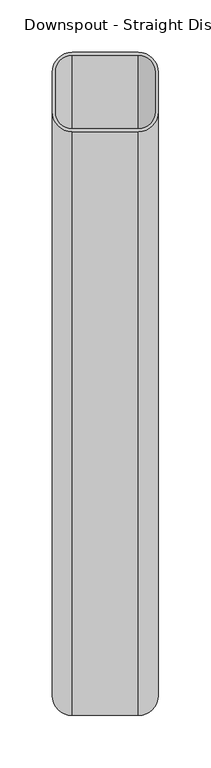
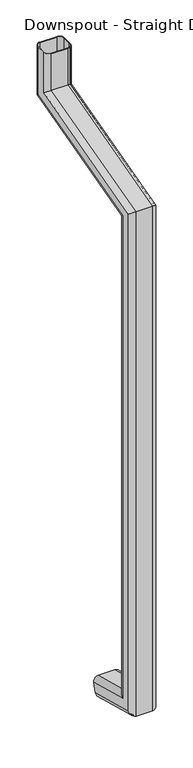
"""IFC4 building model written with IfcOpenShell, lengths in millimetres: proxy geometry."""

from ifc_helpers import new_model, si_unit, frame, origin, place, context, project, spatial, polyline, circle_curve, ellipse_curve, source, transform, mapped, element, save
from ifc_brep_helpers import plane_surface, cylinder_surface, revolved_surface, advanced_brep


def proxy_8c5c01b0(model_context):
    return source(origin(), model_context, "Body", "AdvancedBrep", [
        advanced_brep(
        [(50.8, 401.4694972, 133.999113), (31.75, 396.5389944, 115.598226), (-31.75, 396.5389944, 115.598226), (-50.8, 401.4694972, 133.999113), (-50.8, 411.3305028, 170.800887), (-31.75, 416.2610056, 189.201774), (31.75, 416.2610056, 189.201774), (50.8, 411.3305028, 170.800887), (47.625, 401.4694972, 133.999113), (47.625, 411.3305028, 170.800887), (31.75, 415.4392552, 186.1349595), (-31.75, 415.4392552, 186.1349595), (-47.625, 411.3305028, 170.800887), (-47.625, 401.4694972, 133.999113), (-31.75, 397.3607448, 118.6650405), (31.75, 397.3607448, 118.6650405), (31.75, 165.1, 177.6121177), (50.8, 184.15, 192.2296968), (50.8, 184.15, 2193.2213622), (31.75, 165.1, 2207.8389413), (-31.75, 165.1, 177.6121177), (-31.75, 165.1, 2207.8389413), (-50.8, 184.15, 192.2296968), (-50.8, 184.15, 2193.2213622), (-31.75, 241.3, 236.0824341), (-50.8, 222.25, 221.464855), (-50.8, 222.25, 2163.9862039), (-31.75, 241.3, 2149.3686248), (31.75, 241.3, 236.0824341), (31.75, 241.3, 2149.3686248), (50.8, 222.25, 221.464855), (50.8, 222.25, 2163.9862039), (31.75, 238.125, 233.646171), (47.625, 222.25, 221.464855), (47.625, 222.25, 2163.9862039), (31.75, 238.125, 2151.804888), (-31.75, 238.125, 233.646171), (-31.75, 238.125, 2151.804888), (-47.625, 222.25, 221.464855), (-47.625, 222.25, 2163.9862039), (-31.75, 168.275, 180.0483808), (-47.625, 184.15, 192.2296968), (-47.625, 184.15, 2193.2213622), (-31.75, 168.275, 2205.4026781), (31.75, 168.275, 180.0483808), (31.75, 168.275, 2205.4026781), (47.625, 184.15, 192.2296968), (47.625, 184.15, 2193.2213622), (50.8, 742.95, 2342.9513709), (31.75, 723.9, 2357.56895), (-31.75, 723.9, 2357.56895), (-50.8, 742.95, 2342.9513709), (-50.8, 781.05, 2313.7162127), (-31.75, 800.1, 2299.0986335), (31.75, 800.1, 2299.0986335), (50.8, 781.05, 2313.7162127), (47.625, 781.05, 2313.7162127), (31.75, 796.925, 2301.5348967), (-31.75, 796.925, 2301.5348967), (-47.625, 781.05, 2313.7162127), (-47.625, 742.95, 2342.9513709), (-31.75, 727.075, 2355.1326868), (31.75, 727.075, 2355.1326868), (47.625, 742.95, 2342.9513709), (50.8, 742.95, 2506.1337918), (50.8, 781.05, 2506.1337918), (31.75, 800.1, 2506.1337918), (-31.75, 800.1, 2506.1337918), (-50.8, 781.05, 2506.1337918), (-50.8, 742.95, 2506.1337918), (-31.75, 723.9, 2506.1337918), (31.75, 723.9, 2506.1337918), (47.625, 742.95, 2506.1337918), (31.75, 727.075, 2506.1337918), (-31.75, 727.075, 2506.1337918), (-47.625, 742.95, 2506.1337918), (-47.625, 781.05, 2506.1337918), (-31.75, 796.925, 2506.1337918), (31.75, 796.925, 2506.1337918), (47.625, 781.05, 2506.1337918)],
        [
            (0, 1, circle_curve(frame((31.75, 401.4694972, 133.999113), z_axis=(0.0, 0.9659258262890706, -0.25881904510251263), x_axis=(0.0, -0.25881904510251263, -0.9659258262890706)), 19.05)),
            (1, 2),
            (2, 3, circle_curve(frame((-31.75, 401.4694972, 133.999113), z_axis=(0.0, 0.9659258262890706, -0.25881904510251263), x_axis=(0.0, -0.25881904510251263, -0.9659258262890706)), 19.05)),
            (3, 4),
            (4, 5, circle_curve(frame((-31.75, 411.3305028, 170.800887), z_axis=(0.0, 0.9659258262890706, -0.25881904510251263), x_axis=(0.0, -0.25881904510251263, -0.9659258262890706)), 19.05)),
            (5, 6),
            (6, 7, circle_curve(frame((31.75, 411.3305028, 170.800887), z_axis=(0.0, 0.9659258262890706, -0.25881904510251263), x_axis=(0.0, -0.25881904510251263, -0.9659258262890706)), 19.05)),
            (7, 0),
            (8, 9),
            (9, 10, circle_curve(frame((31.75, 411.3305028, 170.800887), z_axis=(0.0, -0.9659258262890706, 0.25881904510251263), x_axis=(0.0, -0.25881904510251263, -0.9659258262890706)), 15.875)),
            (10, 11),
            (11, 12, circle_curve(frame((-31.75, 411.3305028, 170.800887), z_axis=(0.0, -0.9659258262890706, 0.25881904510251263), x_axis=(0.0, -0.25881904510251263, -0.9659258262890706)), 15.875)),
            (12, 13),
            (13, 14, circle_curve(frame((-31.75, 401.4694972, 133.999113), z_axis=(0.0, -0.9659258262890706, 0.25881904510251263), x_axis=(0.0, -0.25881904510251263, -0.9659258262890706)), 15.875)),
            (14, 15),
            (15, 8, circle_curve(frame((31.75, 401.4694972, 133.999113), z_axis=(0.0, -0.9659258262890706, 0.25881904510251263), x_axis=(0.0, -0.25881904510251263, -0.9659258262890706)), 15.875)),
            (16, 17, ellipse_curve(frame((31.75, 184.15, 192.2296968), z_axis=(0.0, -0.608761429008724, 0.7933533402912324), x_axis=(0.0, -0.7933533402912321, -0.6087614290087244)), 24.0119995, 19.05)),
            (17, 18),
            (18, 19, ellipse_curve(frame((31.75, 184.15, 2193.2213622), z_axis=(0.0, -0.6087614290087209, -0.793353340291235), x_axis=(0.0, 0.7933533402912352, -0.6087614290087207)), 24.0119995, 19.05)),
            (19, 16),
            (20, 16),
            (19, 21),
            (21, 20),
            (22, 20, ellipse_curve(frame((-31.75, 184.15, 192.2296968), z_axis=(0.0, -0.608761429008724, 0.7933533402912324), x_axis=(0.0, -0.7933533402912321, -0.6087614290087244)), 24.0119995, 19.05)),
            (21, 23, ellipse_curve(frame((-31.75, 184.15, 2193.2213622), z_axis=(0.0, -0.6087614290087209, -0.793353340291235), x_axis=(0.0, 0.7933533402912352, -0.6087614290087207)), 24.0119995, 19.05)),
            (23, 22),
            (24, 25, ellipse_curve(frame((-31.75, 222.25, 221.464855), z_axis=(0.0, -0.608761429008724, 0.7933533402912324), x_axis=(0.0, -0.7933533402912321, -0.6087614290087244)), 24.0119995, 19.05)),
            (25, 26),
            (26, 27, ellipse_curve(frame((-31.75, 222.25, 2163.9862039), z_axis=(0.0, -0.6087614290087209, -0.793353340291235), x_axis=(0.0, 0.7933533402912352, -0.6087614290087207)), 24.0119995, 19.05)),
            (27, 24),
            (28, 24),
            (27, 29),
            (29, 28),
            (30, 28, ellipse_curve(frame((31.75, 222.25, 221.464855), z_axis=(0.0, -0.608761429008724, 0.7933533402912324), x_axis=(0.0, -0.7933533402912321, -0.6087614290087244)), 24.0119995, 19.05)),
            (29, 31, ellipse_curve(frame((31.75, 222.25, 2163.9862039), z_axis=(0.0, -0.6087614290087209, -0.793353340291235), x_axis=(0.0, 0.7933533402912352, -0.6087614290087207)), 24.0119995, 19.05)),
            (31, 30),
            (32, 33, ellipse_curve(frame((31.75, 222.25, 221.464855), z_axis=(0.0, 0.608761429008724, -0.7933533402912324), x_axis=(0.0, 0.7933533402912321, 0.6087614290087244)), 20.0099996, 15.875)),
            (33, 34),
            (34, 35, ellipse_curve(frame((31.75, 222.25, 2163.9862039), z_axis=(0.0, 0.6087614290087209, 0.793353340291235), x_axis=(0.0, -0.7933533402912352, 0.6087614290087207)), 20.0099996, 15.875)),
            (35, 32),
            (36, 32),
            (35, 37),
            (37, 36),
            (38, 36, ellipse_curve(frame((-31.75, 222.25, 221.464855), z_axis=(0.0, 0.608761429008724, -0.7933533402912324), x_axis=(0.0, 0.7933533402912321, 0.6087614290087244)), 20.0099996, 15.875)),
            (37, 39, ellipse_curve(frame((-31.75, 222.25, 2163.9862039), z_axis=(0.0, 0.6087614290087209, 0.793353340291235), x_axis=(0.0, -0.7933533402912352, 0.6087614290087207)), 20.0099996, 15.875)),
            (39, 38),
            (40, 41, ellipse_curve(frame((-31.75, 184.15, 192.2296968), z_axis=(0.0, 0.608761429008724, -0.7933533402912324), x_axis=(0.0, 0.7933533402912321, 0.6087614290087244)), 20.0099996, 15.875)),
            (41, 42),
            (42, 43, ellipse_curve(frame((-31.75, 184.15, 2193.2213622), z_axis=(0.0, 0.6087614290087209, 0.793353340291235), x_axis=(0.0, -0.7933533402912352, 0.6087614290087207)), 20.0099996, 15.875)),
            (43, 40),
            (44, 40),
            (43, 45),
            (45, 44),
            (46, 44, ellipse_curve(frame((31.75, 184.15, 192.2296968), z_axis=(0.0, 0.608761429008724, -0.7933533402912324), x_axis=(0.0, 0.7933533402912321, 0.6087614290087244)), 20.0099996, 15.875)),
            (45, 47, ellipse_curve(frame((31.75, 184.15, 2193.2213622), z_axis=(0.0, 0.6087614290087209, 0.793353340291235), x_axis=(0.0, -0.7933533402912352, 0.6087614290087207)), 20.0099996, 15.875)),
            (47, 46),
            (18, 48),
            (48, 49, ellipse_curve(frame((31.75, 742.95, 2342.9513709), z_axis=(0.0, -0.6087614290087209, -0.793353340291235), x_axis=(0.0, -0.7933533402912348, 0.608761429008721)), 24.0119995, 19.05)),
            (49, 19),
            (49, 50),
            (50, 21),
            (50, 51, ellipse_curve(frame((-31.75, 742.95, 2342.9513709), z_axis=(0.0, -0.6087614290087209, -0.793353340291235), x_axis=(0.0, -0.7933533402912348, 0.608761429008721)), 24.0119995, 19.05)),
            (51, 23),
            (26, 52),
            (52, 53, ellipse_curve(frame((-31.75, 781.05, 2313.7162127), z_axis=(0.0, -0.6087614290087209, -0.793353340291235), x_axis=(0.0, -0.7933533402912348, 0.608761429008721)), 24.0119995, 19.05)),
            (53, 27),
            (53, 54),
            (54, 29),
            (54, 55, ellipse_curve(frame((31.75, 781.05, 2313.7162127), z_axis=(0.0, -0.6087614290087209, -0.793353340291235), x_axis=(0.0, -0.7933533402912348, 0.608761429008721)), 24.0119995, 19.05)),
            (55, 31),
            (34, 56),
            (56, 57, ellipse_curve(frame((31.75, 781.05, 2313.7162127), z_axis=(0.0, 0.6087614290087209, 0.793353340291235), x_axis=(0.0, 0.7933533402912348, -0.608761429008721)), 20.0099996, 15.875)),
            (57, 35),
            (57, 58),
            (58, 37),
            (58, 59, ellipse_curve(frame((-31.75, 781.05, 2313.7162127), z_axis=(0.0, 0.6087614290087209, 0.793353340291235), x_axis=(0.0, 0.7933533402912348, -0.608761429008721)), 20.0099996, 15.875)),
            (59, 39),
            (42, 60),
            (60, 61, ellipse_curve(frame((-31.75, 742.95, 2342.9513709), z_axis=(0.0, 0.6087614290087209, 0.793353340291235), x_axis=(0.0, 0.7933533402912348, -0.608761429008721)), 20.0099996, 15.875)),
            (61, 43),
            (61, 62),
            (62, 45),
            (62, 63, ellipse_curve(frame((31.75, 742.95, 2342.9513709), z_axis=(0.0, 0.6087614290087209, 0.793353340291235), x_axis=(0.0, 0.7933533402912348, -0.608761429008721)), 20.0099996, 15.875)),
            (63, 47),
            (64, 65),
            (65, 66, circle_curve(frame((31.75, 781.05, 2506.1337918), z_axis=(0.0, 0.0, 1.0), x_axis=(0.0, -1.0, 0.0)), 19.05)),
            (66, 67),
            (67, 68, circle_curve(frame((-31.75, 781.05, 2506.1337918), z_axis=(0.0, 0.0, 1.0), x_axis=(0.0, -1.0, 0.0)), 19.05)),
            (68, 69),
            (69, 70, circle_curve(frame((-31.75, 742.95, 2506.1337918), z_axis=(0.0, 0.0, 1.0), x_axis=(0.0, -1.0, 0.0)), 19.05)),
            (70, 71),
            (71, 64, circle_curve(frame((31.75, 742.95, 2506.1337918), z_axis=(0.0, 0.0, 1.0), x_axis=(0.0, -1.0, 0.0)), 19.05)),
            (72, 73, circle_curve(frame((31.75, 742.95, 2506.1337918), z_axis=(0.0, 0.0, -1.0), x_axis=(0.0, -1.0, 0.0)), 15.875)),
            (73, 74),
            (74, 75, circle_curve(frame((-31.75, 742.95, 2506.1337918), z_axis=(0.0, 0.0, -1.0), x_axis=(0.0, -1.0, 0.0)), 15.875)),
            (75, 76),
            (76, 77, circle_curve(frame((-31.75, 781.05, 2506.1337918), z_axis=(0.0, 0.0, -1.0), x_axis=(0.0, -1.0, 0.0)), 15.875)),
            (77, 78),
            (78, 79, circle_curve(frame((31.75, 781.05, 2506.1337918), z_axis=(0.0, 0.0, -1.0), x_axis=(0.0, -1.0, 0.0)), 15.875)),
            (79, 72),
            (48, 64),
            (71, 49),
            (70, 50),
            (69, 51),
            (52, 68),
            (67, 53),
            (66, 54),
            (65, 55),
            (56, 79),
            (78, 57),
            (77, 58),
            (76, 59),
            (60, 75),
            (74, 61),
            (73, 62),
            (72, 63),
            (0, 17),
            (16, 1),
            (20, 2),
            (22, 3),
            (25, 4),
            (24, 5),
            (28, 6),
            (30, 7),
            (8, 46),
            (33, 9),
            (32, 10),
            (36, 11),
            (38, 12),
            (41, 13),
            (40, 14),
            (44, 15),
        ],
        [
            plane_surface(frame((0.0, 406.4, 152.4), z_axis=(0.0, 0.9659258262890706, -0.25881904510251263), x_axis=(1.0, 0.0, 0.0))),
            cylinder_surface(frame((31.75, 184.15, 206.8472759), z_axis=(0.0, 0.0, -1.0), x_axis=(0.0, -1.0, 0.0)), 19.05),
            plane_surface(frame((31.75, 165.1, 177.6121177), z_axis=(0.0, -1.0, 0.0), x_axis=(0.0, 0.0, 1.0))),
            cylinder_surface(frame((-31.75, 184.15, 206.8472759), z_axis=(0.0, 0.0, -1.0), x_axis=(0.0, -1.0, 0.0)), 19.05),
            cylinder_surface(frame((-31.75, 222.25, 206.8472759), z_axis=(0.0, 0.0, -1.0), x_axis=(0.0, -1.0, 0.0)), 19.05),
            plane_surface(frame((-31.75, 241.3, 236.0824341), z_axis=(0.0, 1.0, 0.0), x_axis=(0.0, 0.0, 1.0))),
            cylinder_surface(frame((31.75, 222.25, 206.8472759), z_axis=(0.0, 0.0, -1.0), x_axis=(0.0, -1.0, 0.0)), 19.05),
            revolved_surface(polyline([(31.75, 206.375, 2176.1675198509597), (31.75, 206.375, 209.28353904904)]), (31.75, 222.25, 206.8472759), (0.0, 0.0, 1.0)),
            plane_surface(frame((31.75, 238.125, 233.646171), z_axis=(0.0, -1.0, 0.0), x_axis=(0.0, 0.0, 1.0))),
            revolved_surface(polyline([(-31.75, 206.375, 2176.1675198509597), (-31.75, 206.375, 209.28353904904)]), (-31.75, 222.25, 206.8472759), (0.0, 0.0, 1.0)),
            revolved_surface(polyline([(-31.75, 168.275, 2205.4026781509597), (-31.75, 168.275, 180.0483808)]), (-31.75, 184.15, 206.8472759), (0.0, 0.0, 1.0)),
            plane_surface(frame((-31.75, 168.275, 180.0483808), z_axis=(0.0, 1.0, 0.0), x_axis=(0.0, 0.0, 1.0))),
            revolved_surface(polyline([(31.75, 168.275, 2205.4026781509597), (31.75, 168.275, 180.0483808)]), (31.75, 184.15, 206.8472759), (0.0, 0.0, 1.0)),
            cylinder_surface(frame((31.75, 198.2694972, 2197.00467), z_axis=(0.0, -0.9659258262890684, -0.2588190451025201), x_axis=(0.0, -0.2588190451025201, 0.9659258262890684)), 19.05),
            plane_surface(frame((31.75, 165.1, 2207.8389413), z_axis=(0.0, -0.2588190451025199, 0.9659258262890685), x_axis=(0.0, 0.9659258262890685, 0.2588190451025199))),
            cylinder_surface(frame((-31.75, 198.2694972, 2197.00467), z_axis=(0.0, -0.9659258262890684, -0.2588190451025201), x_axis=(0.0, -0.2588190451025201, 0.9659258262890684)), 19.05),
            cylinder_surface(frame((-31.75, 208.1305028, 2160.2028961), z_axis=(0.0, -0.9659258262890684, -0.2588190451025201), x_axis=(0.0, -0.2588190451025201, 0.9659258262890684)), 19.05),
            plane_surface(frame((-31.75, 241.3, 2149.3686248), z_axis=(0.0, 0.2588190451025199, -0.9659258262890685), x_axis=(0.0, 0.9659258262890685, 0.2588190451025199))),
            cylinder_surface(frame((31.75, 208.1305028, 2160.2028961), z_axis=(0.0, -0.9659258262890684, -0.2588190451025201), x_axis=(0.0, -0.2588190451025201, 0.9659258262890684)), 19.05),
            revolved_surface(polyline([(31.75, 788.7074953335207, 2332.2030417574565), (31.75, 206.3749999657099, 2176.1675198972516)]), (31.75, 208.1305028, 2160.2028961), (0.0, 0.9659258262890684, 0.2588190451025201)),
            plane_surface(frame((31.75, 238.125, 2151.804888), z_axis=(0.0, -0.25881904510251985, 0.9659258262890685), x_axis=(0.0, 0.9659258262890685, 0.25881904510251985))),
            revolved_surface(polyline([(-31.75, 788.7074953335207, 2332.2030417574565), (-31.75, 206.3749999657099, 2176.1675198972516)]), (-31.75, 208.1305028, 2160.2028961), (0.0, 0.9659258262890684, 0.2588190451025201)),
            revolved_surface(polyline([(-31.75, 750.6074953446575, 2361.4381999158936), (-31.75, 168.2750000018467, 2205.402678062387)]), (-31.75, 198.2694972, 2197.00467), (0.0, 0.9659258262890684, 0.2588190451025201)),
            plane_surface(frame((-31.75, 168.275, 2205.4026781), z_axis=(0.0, 0.25881904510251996, -0.9659258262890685), x_axis=(0.0, 0.9659258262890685, 0.25881904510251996))),
            revolved_surface(polyline([(31.75, 750.6074953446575, 2361.4381999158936), (31.75, 168.2750000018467, 2205.402678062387)]), (31.75, 198.2694972, 2197.00467), (0.0, 0.9659258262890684, 0.2588190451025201)),
            plane_surface(frame((0.0, 762.0, 2506.1337918), z_axis=(0.0, 0.0, 1.0), x_axis=(1.0, 0.0, 0.0))),
            cylinder_surface(frame((31.75, 742.95, 2328.3337918), z_axis=(0.0, 0.0, -1.0), x_axis=(0.0, -1.0, 0.0)), 19.05),
            plane_surface(frame((31.75, 723.9, 2357.56895), z_axis=(0.0, -1.0, 0.0), x_axis=(0.0, 0.0, 1.0))),
            cylinder_surface(frame((-31.75, 742.95, 2328.3337918), z_axis=(0.0, 0.0, -1.0), x_axis=(0.0, -1.0, 0.0)), 19.05),
            cylinder_surface(frame((-31.75, 781.05, 2328.3337918), z_axis=(0.0, 0.0, -1.0), x_axis=(0.0, -1.0, 0.0)), 19.05),
            plane_surface(frame((-31.75, 800.1, 2299.0986335), z_axis=(0.0, 1.0, 0.0), x_axis=(0.0, 0.0, 1.0))),
            cylinder_surface(frame((31.75, 781.05, 2328.3337918), z_axis=(0.0, 0.0, -1.0), x_axis=(0.0, -1.0, 0.0)), 19.05),
            revolved_surface(polyline([(31.75, 765.175, 2506.1337918), (31.75, 765.175, 2301.5348967)]), (31.75, 781.05, 2328.3337918), (0.0, 0.0, 1.0)),
            plane_surface(frame((31.75, 796.925, 2301.5348967), z_axis=(0.0, -1.0, 0.0), x_axis=(0.0, 0.0, 1.0))),
            revolved_surface(polyline([(-31.75, 765.175, 2506.1337918), (-31.75, 765.175, 2301.5348967)]), (-31.75, 781.05, 2328.3337918), (0.0, 0.0, 1.0)),
            revolved_surface(polyline([(-31.75, 727.075, 2506.1337918), (-31.75, 727.075, 2330.77005494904)]), (-31.75, 742.95, 2328.3337918), (0.0, 0.0, 1.0)),
            plane_surface(frame((-31.75, 727.075, 2355.1326868), z_axis=(0.0, 1.0, 0.0), x_axis=(0.0, 0.0, 1.0))),
            revolved_surface(polyline([(31.75, 727.075, 2506.1337918), (31.75, 727.075, 2330.77005494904)]), (31.75, 742.95, 2328.3337918), (0.0, 0.0, 1.0)),
            cylinder_surface(frame((31.75, 401.4694972, 133.999113), z_axis=(0.0, 0.9659258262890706, -0.25881904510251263), x_axis=(0.0, -0.25881904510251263, -0.9659258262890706)), 19.05),
            plane_surface(frame((31.75, 396.5389944, 115.598226), z_axis=(0.0, -0.25881904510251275, -0.9659258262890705), x_axis=(0.0, -0.9659258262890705, 0.25881904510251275))),
            cylinder_surface(frame((-31.75, 401.4694972, 133.999113), z_axis=(0.0, 0.9659258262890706, -0.25881904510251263), x_axis=(0.0, -0.25881904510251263, -0.9659258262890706)), 19.05),
            plane_surface(frame((-50.8, 401.4694972, 133.999113), z_axis=(-1.0000000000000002, 0.0, 0.0), x_axis=(0.0, -0.9659258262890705, 0.25881904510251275))),
            cylinder_surface(frame((-31.75, 411.3305028, 170.800887), z_axis=(0.0, 0.9659258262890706, -0.25881904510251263), x_axis=(0.0, -0.25881904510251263, -0.9659258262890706)), 19.05),
            plane_surface(frame((-31.75, 416.2610056, 189.201774), z_axis=(0.0, 0.25881904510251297, 0.9659258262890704), x_axis=(0.0, -0.9659258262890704, 0.25881904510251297))),
            cylinder_surface(frame((31.75, 411.3305028, 170.800887), z_axis=(0.0, 0.9659258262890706, -0.25881904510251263), x_axis=(0.0, -0.25881904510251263, -0.9659258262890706)), 19.05),
            plane_surface(frame((50.8, 411.3305028, 170.800887), z_axis=(1.0000000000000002, 0.0, 0.0), x_axis=(0.0, -0.9659258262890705, 0.2588190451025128))),
            plane_surface(frame((47.625, 401.4694972, 133.999113), z_axis=(-1.0000000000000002, 0.0, 0.0), x_axis=(0.0, -0.9659258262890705, 0.2588190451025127))),
            revolved_surface(polyline([(31.75, 206.3749999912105, 209.28353909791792), (31.75, 407.22175051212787, 155.46681449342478)]), (31.75, 411.3305028, 170.800887), (0.0, -0.9659258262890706, 0.25881904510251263)),
            plane_surface(frame((31.75, 415.4392552, 186.1349595), z_axis=(0.0, -0.2588190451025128, -0.9659258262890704), x_axis=(0.0, -0.9659258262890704, 0.2588190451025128))),
            revolved_surface(polyline([(-31.75, 206.3749999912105, 209.28353909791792), (-31.75, 407.22175051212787, 155.46681449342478)]), (-31.75, 411.3305028, 170.800887), (0.0, -0.9659258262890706, 0.25881904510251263)),
            plane_surface(frame((-47.625, 411.3305028, 170.800887), z_axis=(1.0, 0.0, 0.0), x_axis=(0.0, -0.9659258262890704, 0.25881904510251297))),
            revolved_surface(polyline([(-31.75, 168.27499997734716, 180.04838084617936), (-31.75, 397.3607448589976, 118.66504050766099)]), (-31.75, 401.4694972, 133.999113), (0.0, -0.9659258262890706, 0.25881904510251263)),
            plane_surface(frame((-31.75, 397.3607448, 118.6650405), z_axis=(0.0, 0.2588190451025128, 0.9659258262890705), x_axis=(0.0, -0.9659258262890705, 0.2588190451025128))),
            revolved_surface(polyline([(31.75, 168.27499997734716, 180.04838084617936), (31.75, 397.3607448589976, 118.66504050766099)]), (31.75, 401.4694972, 133.999113), (0.0, -0.9659258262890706, 0.25881904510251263)),
        ],
        [
            (0, [[1, 2, 3, 4, 5, 6, 7, 8], [9, 10, 11, 12, 13, 14, 15, 16]]),
            (1, [[17, 18, 19, 20]]),
            (2, [[21, -20, 22, 23]]),
            (3, [[24, -23, 25, 26]]),
            (4, [[27, 28, 29, 30]]),
            (5, [[31, -30, 32, 33]]),
            (6, [[34, -33, 35, 36]]),
            (7, [[37, 38, 39, 40]]),
            (8, [[41, -40, 42, 43]]),
            (9, [[44, -43, 45, 46]]),
            (10, [[47, 48, 49, 50]]),
            (11, [[51, -50, 52, 53]]),
            (12, [[54, -53, 55, 56]]),
            (13, [[-19, 57, 58, 59]]),
            (14, [[-22, -59, 60, 61]]),
            (15, [[-25, -61, 62, 63]]),
            (16, [[-29, 64, 65, 66]]),
            (17, [[-32, -66, 67, 68]]),
            (18, [[-35, -68, 69, 70]]),
            (19, [[-39, 71, 72, 73]]),
            (20, [[-42, -73, 74, 75]]),
            (21, [[-45, -75, 76, 77]]),
            (22, [[-49, 78, 79, 80]]),
            (23, [[-52, -80, 81, 82]]),
            (24, [[-55, -82, 83, 84]]),
            (25, [[85, 86, 87, 88, 89, 90, 91, 92], [93, 94, 95, 96, 97, 98, 99, 100]]),
            (26, [[-58, 101, -92, 102]]),
            (27, [[-60, -102, -91, 103]]),
            (28, [[-62, -103, -90, 104]]),
            (29, [[-65, 105, -88, 106]]),
            (30, [[-67, -106, -87, 107]]),
            (31, [[-69, -107, -86, 108]]),
            (32, [[-72, 109, -99, 110]]),
            (33, [[-74, -110, -98, 111]]),
            (34, [[-76, -111, -97, 112]]),
            (35, [[-79, 113, -95, 114]]),
            (36, [[-81, -114, -94, 115]]),
            (37, [[-83, -115, -93, 116]]),
            (38, [[-1, 117, -17, 118]]),
            (39, [[-2, -118, -21, 119]]),
            (40, [[-3, -119, -24, 120]]),
            (41, [[-4, -120, -26, -63, -104, -89, -105, -64, -28, 121]]),
            (42, [[-5, -121, -27, 122]]),
            (43, [[-6, -122, -31, 123]]),
            (44, [[-7, -123, -34, 124]]),
            (45, [[-8, -124, -36, -70, -108, -85, -101, -57, -18, -117]]),
            (46, [[-9, 125, -56, -84, -116, -100, -109, -71, -38, 126]]),
            (47, [[-10, -126, -37, 127]]),
            (48, [[-11, -127, -41, 128]]),
            (49, [[-12, -128, -44, 129]]),
            (50, [[-13, -129, -46, -77, -112, -96, -113, -78, -48, 130]]),
            (51, [[-14, -130, -47, 131]]),
            (52, [[-15, -131, -51, 132]]),
            (53, [[-16, -132, -54, -125]]),
        ],
    ),
    ])


if __name__ == "__main__":
    model = new_model("IFC4")
    model_context = context("Model", 3, world=origin())
    ifc_project = project(units=[si_unit("LENGTHUNIT", "METRE", prefix="MILLI")], contexts=[model_context])
    site = spatial("IfcSite", under=ifc_project)
    building = spatial("IfcBuilding", under=site)
    placement = place(None, origin())
    proxy_shape = proxy_8c5c01b0(model_context)
    element("IfcBuildingElementProxy", 1, Name="Downspout - Straight Discharge : 4\" x 3\" A", ObjectType="Downspout - Straight Discharge : 4\" x 3\" A", at=placement, inside=building, context=model_context, shape_type="MappedRepresentation", body=[
        mapped(proxy_shape, transform((0.0, 0.0, 0.0), x_axis=(1.0, 0.0, 0.0), y_axis=(0.0, 1.0, 0.0), z_axis=(0.0, 0.0, 1.0))),
    ])
    save(model, "model.ifc")
